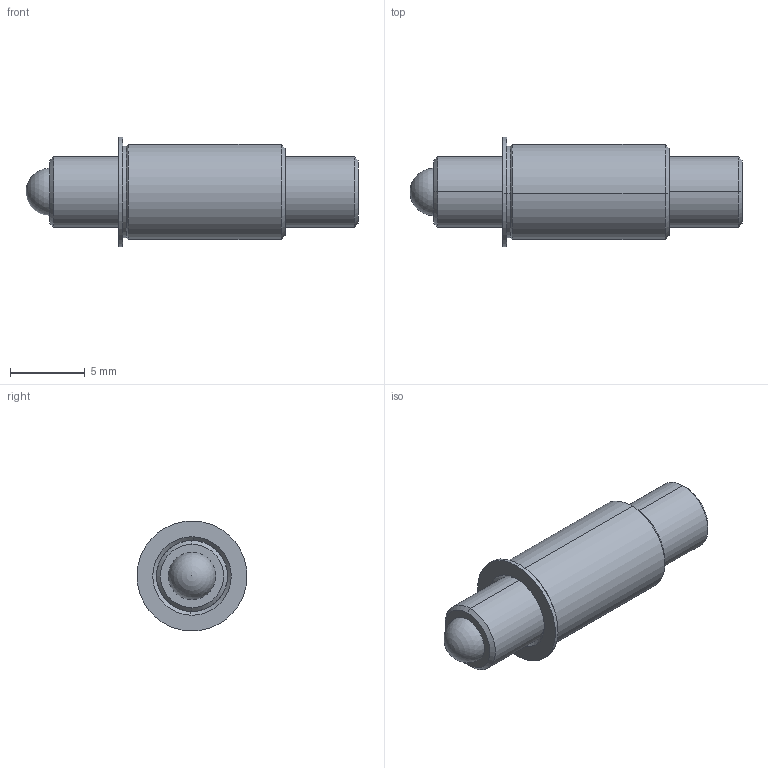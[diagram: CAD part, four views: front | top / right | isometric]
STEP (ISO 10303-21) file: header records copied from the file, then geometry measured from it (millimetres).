
FILE_DESCRIPTION (( 'STEP AP214' ), '1' );
FILE_NAME ('TSB187-100-875_437.STEP', '2013-03-13T13:19:17', ( 'workpc' ), ( 'Microsoft' ), 'SwSTEP 2.0', 'SolidWorks 2013', '' );
FILE_SCHEMA (( 'AUTOMOTIVE_DESIGN' ));
Length unit declared in the file: inch
Products named in the file (3): TB187-100-438; TS187-100-875; TSB187-100-875_437
Assembly tree (2 placements, depth 2):
  TSB187-100-875_437
    TS187-100-875
    TB187-100-438
Bounding box: 22.23 x 7.36 x 7.36 mm (x, y, z)
Volume: 518.1 mm3; surface area: 836.9 mm2
Topology: 3 solids, 3 shells, 39 faces, 83 edges, 51 vertices
Faces by surface type: plane 13, cylinder 12, cone 12, sphere 2
Entity records: 1151 total; most frequent: DIRECTION 202, CARTESIAN_POINT 170, ORIENTED_EDGE 156, AXIS2_PLACEMENT_3D 80, EDGE_CURVE 78, VERTEX_POINT 48, EDGE_LOOP 44, LINE 42
